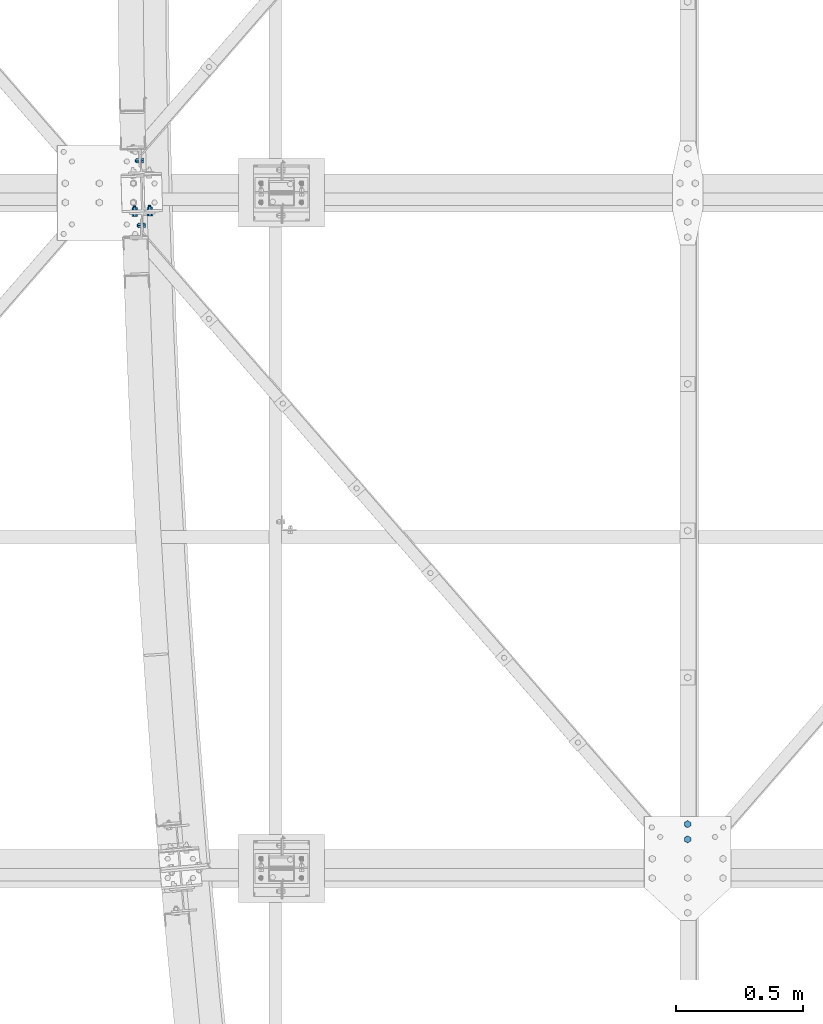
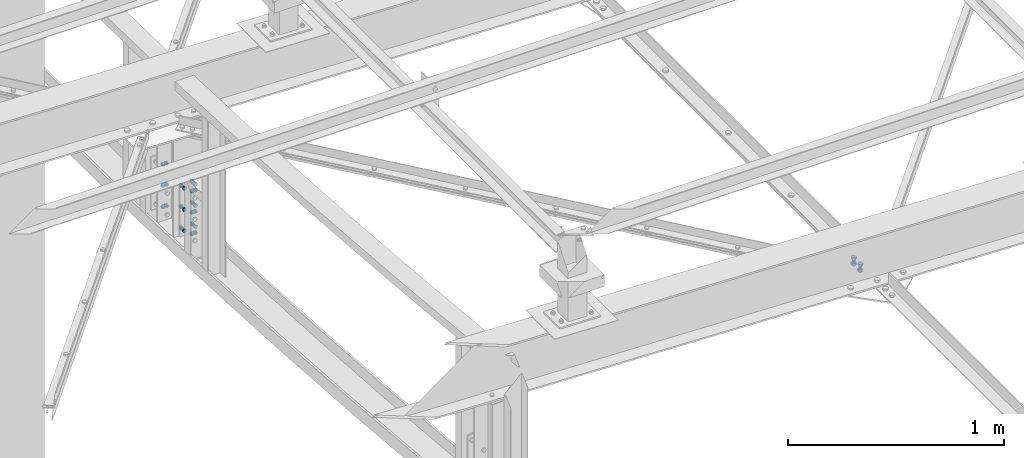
# One storey, part 163 of 3134: 4 mechanical fasteners, 4 elements without a shape of their own.
"""IFC2X3 building model written with IfcOpenShell, lengths in millimetres."""

from ifc_helpers import new_model, si_unit, frame, origin_with_axes, place, context, subcontext, project, spatial, faceted_brep, source, transform, mapped, material, type_object, element, aggregate, save


model = new_model("IFC2X3")

# Units and contexts
model_context = context("Model", 3, precision=1e-05, world=origin_with_axes())
body_context = subcontext(model_context, "Body", "Model", "MODEL_VIEW")
ifc_project = project(units=[si_unit("LENGTHUNIT", "METRE", prefix="MILLI"), si_unit("AREAUNIT", "SQUARE_METRE"), si_unit("VOLUMEUNIT", "CUBIC_METRE"), si_unit("MASSUNIT", "GRAM", prefix="KILO"), si_unit("TIMEUNIT", "SECOND"), si_unit("PLANEANGLEUNIT", "RADIAN"), si_unit("SOLIDANGLEUNIT", "STERADIAN"), si_unit("THERMODYNAMICTEMPERATUREUNIT", "DEGREE_CELSIUS"), si_unit("LUMINOUSINTENSITYUNIT", "LUMEN")], contexts=[model_context])

# Site, building, storey
site_placement = place(None, origin_with_axes())
site = spatial("IfcSite", under=ifc_project, at=site_placement, CompositionType="ELEMENT")
building_placement = place(site_placement, origin_with_axes())
building = spatial("IfcBuilding", under=site, at=building_placement, Name="Undefined", CompositionType="ELEMENT")
storey_placement = place(building_placement, origin_with_axes())
storey = spatial("IfcBuildingStorey", under=building, at=storey_placement, Name="Undefined", CompositionType="ELEMENT", Elevation=0.0)

# Assembly, mechanical fastener
assembly_1_placement = place(storey_placement, origin_with_axes())
assembly_1 = element("IfcElementAssembly", 1, at=assembly_1_placement, inside=storey, AssemblyPlace="NOTDEFINED", PredefinedType="RIGID_FRAME")
ifc_material = material(Name="8.8")
mechanical_fastener_type = type_object("IfcMechanicalFastenerType", Name="Bolt assembly")
shared_shape_1 = source(origin_with_axes(), body_context, "Body", "Brep", [
    faceted_brep([(10.9696551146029, -10.499999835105, 0.0), (5.48482755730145, -10.499999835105, 9.5), (-5.48482755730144, -10.499999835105, 9.5), (-10.9696551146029, -10.499999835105, 1.34339530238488e-15), (-5.48482755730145, -10.499999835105, -9.5), (5.48482755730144, -10.499999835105, -9.50000000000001), (5.48482755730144, -2.49999983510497, -9.50000000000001), (-5.48482755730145, -2.49999983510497, -9.5), (-10.9696551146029, -2.49999983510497, 1.34339530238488e-15), (-5.48482755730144, -2.49999983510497, 9.5), (5.48482755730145, -2.49999983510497, 9.5), (10.9696551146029, -2.49999983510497, 0.0), (6.0, -2.49999983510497, 0.0), (5.19615242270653, -2.49999983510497, 3.00000000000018), (2.99999999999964, -2.49999983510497, 5.19615242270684), (-6.21801588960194e-13, -2.49999983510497, 6.0), (-3.00000000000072, -2.49999983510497, 5.19615242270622), (-5.19615242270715, -2.49999983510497, 2.9999999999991), (-6.0, -2.49999983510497, -1.24360317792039e-12), (-5.19615242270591, -2.49999983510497, -3.00000000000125), (-2.99999999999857, -2.49999983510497, -5.19615242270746), (1.85874342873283e-12, -2.49999983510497, -6.0), (3.00000000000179, -2.49999983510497, -5.1961524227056), (5.19615242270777, -2.49999983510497, -2.99999999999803), (5.19615242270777, 22.5, -2.99999999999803), (3.00000000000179, 22.5, -5.1961524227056), (1.85874342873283e-12, 22.5, -6.0), (-2.99999999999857, 22.5, -5.19615242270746), (-5.19615242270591, 22.5, -3.00000000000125), (-6.0, 22.5, -1.24360317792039e-12), (-5.19615242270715, 22.5, 2.9999999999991), (-3.00000000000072, 22.5, 5.19615242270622), (-6.21801588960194e-13, 22.5, 6.0), (2.99999999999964, 22.5, 5.19615242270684), (5.19615242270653, 22.5, 3.00000000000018), (6.0, 22.5, 0.0), (10.9696551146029, 8.50160430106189, 0.0), (5.48482755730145, 8.50160430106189, 9.5), (-5.48482755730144, 8.50160430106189, 9.5), (-10.9696551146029, 8.50160430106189, 1.34339530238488e-15), (-5.48482755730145, 8.50160430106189, -9.5), (5.48482755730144, 8.50160430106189, -9.50000000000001), (5.48482755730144, 18.5016043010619, -9.50000000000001), (-5.48482755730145, 18.5016043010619, -9.5), (-10.9696551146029, 18.5016043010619, 1.34339530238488e-15), (-5.48482755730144, 18.5016043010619, 9.5), (5.48482755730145, 18.5016043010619, 9.5), (10.9696551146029, 18.5016043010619, 0.0)], [[[0, 1, 2, 3, 4, 5]], [[6, 7, 8, 9, 10, 11]], [[0, 11, 10, 1]], [[1, 10, 9, 2]], [[2, 9, 8, 3]], [[3, 8, 7, 4]], [[4, 7, 6, 5]], [[5, 6, 11, 0]], [[12, 13, 14, 15, 16, 17, 18, 19, 20, 21, 22, 23]], [[24, 25, 26, 27, 28, 29, 30, 31, 32, 33, 34, 35]], [[12, 35, 34, 13]], [[13, 34, 33, 14]], [[14, 33, 32, 15]], [[15, 32, 31, 16]], [[16, 31, 30, 17]], [[17, 30, 29, 18]], [[18, 29, 28, 19]], [[19, 28, 27, 20]], [[20, 27, 26, 21]], [[21, 26, 25, 22]], [[22, 25, 24, 23]], [[23, 24, 35, 12]], [[36, 37, 38, 39, 40, 41]], [[42, 43, 44, 45, 46, 47]], [[36, 47, 46, 37]], [[37, 46, 45, 38]], [[38, 45, 44, 39]], [[39, 44, 43, 40]], [[40, 43, 42, 41]], [[41, 42, 47, 36]]]),
    faceted_brep([(7.0, -2.39999983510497, 7.0), (6.46715672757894, -2.39999983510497, 9.6787840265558), (4.94974746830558, -2.39999983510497, 11.9497474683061), (-7.25435187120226e-13, -2.39999983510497, 14.0), (-3.50000000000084, -2.39999983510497, 13.0621778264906), (-6.06217782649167, -2.39999983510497, 10.499999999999), (-7.0, -2.39999983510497, 6.99999999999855), (-7.0, -2.39999983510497, -7.00000000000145), (-6.06217782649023, -2.39999983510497, -10.5000000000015), (-3.49999999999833, -2.39999983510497, -13.062177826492), (2.1685340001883e-12, -2.39999983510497, -14.0), (3.50000000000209, -2.39999983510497, -13.0621778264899), (6.0621778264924, -2.39999983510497, -10.4999999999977), (7.0, -2.39999983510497, -6.9999999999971), (7.0, 2.60000016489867, -6.9999999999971), (6.0621778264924, 2.60000016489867, -10.4999999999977), (3.50000000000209, 2.60000016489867, -13.0621778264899), (2.1685340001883e-12, 2.60000016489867, -14.0), (-3.49999999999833, 2.60000016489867, -13.062177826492), (-6.06217782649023, 2.60000016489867, -10.5000000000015), (-7.0, 2.60000016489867, -7.00000000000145), (-7.0, 2.60000016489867, 6.99999999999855), (-6.06217782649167, 2.60000016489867, 10.499999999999), (-3.50000000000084, 2.60000016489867, 13.0621778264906), (-7.25435187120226e-13, 2.60000016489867, 14.0), (2.67878402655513, 2.60000016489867, 13.4671567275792), (4.94974746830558, 2.60000016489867, 11.9497474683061), (6.46715672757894, 2.60000016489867, 9.6787840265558), (7.0, 2.60000016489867, 7.0), (2.67878402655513, -2.39999983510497, 13.4671567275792), (7.0, 2.40160430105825, 0.0), (6.06217782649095, 2.40160430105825, 3.50000000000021), (3.49999999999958, 2.40160430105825, 6.06217782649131), (-7.25435187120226e-13, 2.40160430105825, 7.0), (-3.50000000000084, 2.40160430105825, 6.06217782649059), (-6.06217782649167, 2.40160430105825, 3.49999999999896), (-7.0, 2.40160430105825, -1.45087037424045e-12), (-6.06217782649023, 2.40160430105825, -3.50000000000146), (-3.49999999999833, 2.40160430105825, -6.06217782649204), (2.1685340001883e-12, 2.40160430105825, -7.0), (3.50000000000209, 2.40160430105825, -6.06217782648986), (6.0621778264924, 2.40160430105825, -3.4999999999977), (6.0621778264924, 8.50160430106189, -3.4999999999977), (3.50000000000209, 8.50160430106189, -6.06217782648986), (2.1685340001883e-12, 8.50160430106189, -7.0), (-3.49999999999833, 8.50160430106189, -6.06217782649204), (-6.06217782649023, 8.50160430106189, -3.50000000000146), (-7.0, 8.50160430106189, -1.45087037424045e-12), (-6.06217782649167, 8.50160430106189, 3.49999999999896), (-3.50000000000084, 8.50160430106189, 6.06217782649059), (-7.25435187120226e-13, 8.50160430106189, 7.0), (3.49999999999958, 8.50160430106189, 6.06217782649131), (6.06217782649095, 8.50160430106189, 3.50000000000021), (7.0, 8.50160430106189, 0.0)], [[[0, 1, 2, 3, 4, 5, 6, 7, 8, 9, 10, 11, 12, 13]], [[14, 15, 16, 17, 18, 19, 20, 21, 22, 23, 24, 25, 26, 27, 28]], [[0, 28, 27, 1]], [[1, 27, 26, 2]], [[2, 26, 25, 29]], [[29, 25, 24, 3]], [[3, 24, 23, 4]], [[4, 23, 22, 5]], [[5, 22, 21, 6]], [[6, 21, 20, 7]], [[7, 20, 19, 8]], [[8, 19, 18, 9]], [[9, 18, 17, 10]], [[10, 17, 16, 11]], [[11, 16, 15, 12]], [[12, 15, 14, 13]], [[13, 14, 28, 0]], [[30, 31, 32, 33, 34, 35, 36, 37, 38, 39, 40, 41]], [[42, 43, 44, 45, 46, 47, 48, 49, 50, 51, 52, 53]], [[30, 53, 52, 31]], [[31, 52, 51, 32]], [[32, 51, 50, 33]], [[33, 50, 49, 34]], [[34, 49, 48, 35]], [[35, 48, 47, 36]], [[36, 47, 46, 37]], [[37, 46, 45, 38]], [[38, 45, 44, 39]], [[39, 44, 43, 40]], [[40, 43, 42, 41]], [[41, 42, 53, 30]]]),
])
mechanical_fastener_1_placement = place(assembly_1_placement, frame((2494.83803670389, 32116.0854592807, 3290.00065963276), z_axis=(-0.0267161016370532, 0.999643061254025, 0.0), x_axis=(0.0, 0.0, -1.0)))
mechanical_fastener_1 = element("IfcMechanicalFastener", 2, at=mechanical_fastener_1_placement, type_object=mechanical_fastener_type, material=ifc_material, Name="Bolt assembly", NominalDiameter=12.0, NominalLength=25.0, context=body_context, shape_type="MappedRepresentation", body=[
    mapped(shared_shape_1, transform((0.0, 0.0, 0.0))),
    mapped(shared_shape_1, transform((120.0, 0.0, 0.0))),
    mapped(shared_shape_1, transform((240.0, 0.0, 0.0))),
])
aggregate(assembly_1, [mechanical_fastener_1])

assembly_2_placement = place(storey_placement, origin_with_axes())
assembly_2 = element("IfcElementAssembly", 3, at=assembly_2_placement, inside=storey, Name="HEA160", AssemblyPlace="NOTDEFINED", PredefinedType="RIGID_FRAME")
shared_shape_2 = source(origin_with_axes(), body_context, "Body", "Brep", [
    faceted_brep([(10.9696551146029, -16.0, 0.0), (5.48482755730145, -16.0, 9.5), (-5.48482755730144, -16.0, 9.5), (-10.9696551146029, -16.0, 1.34339530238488e-15), (-5.48482755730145, -16.0, -9.5), (5.48482755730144, -16.0, -9.50000000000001), (5.48482755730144, -8.0, -9.50000000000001), (-5.48482755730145, -8.0, -9.5), (-10.9696551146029, -8.0, 1.34339530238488e-15), (-5.48482755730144, -8.0, 9.5), (5.48482755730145, -8.0, 9.5), (10.9696551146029, -8.0, 0.0), (6.0, -8.0, 0.0), (5.19615242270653, -8.0, 3.00000000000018), (2.99999999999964, -8.0, 5.19615242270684), (-6.21801588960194e-13, -8.0, 6.0), (-3.00000000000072, -8.0, 5.19615242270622), (-5.19615242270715, -8.0, 2.9999999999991), (-6.0, -8.0, -1.24360317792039e-12), (-5.19615242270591, -8.0, -3.00000000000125), (-2.99999999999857, -8.0, -5.19615242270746), (1.85874342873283e-12, -8.0, -6.0), (3.00000000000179, -8.0, -5.1961524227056), (5.19615242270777, -8.0, -2.99999999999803), (5.19615242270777, 27.0, -2.99999999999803), (3.00000000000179, 27.0, -5.1961524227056), (1.85874342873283e-12, 27.0, -6.0), (-2.99999999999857, 27.0, -5.19615242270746), (-5.19615242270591, 27.0, -3.00000000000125), (-6.0, 27.0, -1.24360317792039e-12), (-5.19615242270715, 27.0, 2.9999999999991), (-3.00000000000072, 27.0, 5.19615242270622), (-6.21801588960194e-13, 27.0, 6.0), (2.99999999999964, 27.0, 5.19615242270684), (5.19615242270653, 27.0, 3.00000000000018), (6.0, 27.0, 0.0), (10.9696551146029, 9.00000000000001, 0.0), (5.48482755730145, 9.00000000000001, 9.5), (-5.48482755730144, 9.00000000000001, 9.5), (-10.9696551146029, 9.00000000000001, 1.34339530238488e-15), (-5.48482755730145, 9.00000000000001, -9.5), (5.48482755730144, 9.00000000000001, -9.50000000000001), (5.48482755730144, 19.0, -9.50000000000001), (-5.48482755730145, 19.0, -9.5), (-10.9696551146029, 19.0, 1.34339530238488e-15), (-5.48482755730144, 19.0, 9.5), (5.48482755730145, 19.0, 9.5), (10.9696551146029, 19.0, 0.0)], [[[0, 1, 2, 3, 4, 5]], [[6, 7, 8, 9, 10, 11]], [[0, 11, 10, 1]], [[1, 10, 9, 2]], [[2, 9, 8, 3]], [[3, 8, 7, 4]], [[4, 7, 6, 5]], [[5, 6, 11, 0]], [[12, 13, 14, 15, 16, 17, 18, 19, 20, 21, 22, 23]], [[24, 25, 26, 27, 28, 29, 30, 31, 32, 33, 34, 35]], [[12, 35, 34, 13]], [[13, 34, 33, 14]], [[14, 33, 32, 15]], [[15, 32, 31, 16]], [[16, 31, 30, 17]], [[17, 30, 29, 18]], [[18, 29, 28, 19]], [[19, 28, 27, 20]], [[20, 27, 26, 21]], [[21, 26, 25, 22]], [[22, 25, 24, 23]], [[23, 24, 35, 12]], [[36, 37, 38, 39, 40, 41]], [[42, 43, 44, 45, 46, 47]], [[36, 47, 46, 37]], [[37, 46, 45, 38]], [[38, 45, 44, 39]], [[39, 44, 43, 40]], [[40, 43, 42, 41]], [[41, 42, 47, 36]]]),
    faceted_brep([(7.0, -7.9, 0.0), (6.06217782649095, -7.9, 3.50000000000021), (3.49999999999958, -7.9, 6.06217782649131), (-7.25435187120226e-13, -7.9, 7.0), (-3.50000000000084, -7.9, 6.06217782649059), (-6.06217782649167, -7.9, 3.49999999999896), (-7.0, -7.9, -1.45087037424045e-12), (-6.06217782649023, -7.9, -3.50000000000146), (-3.49999999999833, -7.9, -6.06217782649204), (2.1685340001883e-12, -7.9, -7.0), (3.50000000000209, -7.9, -6.06217782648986), (6.0621778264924, -7.9, -3.4999999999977), (6.0621778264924, 0.0999999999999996, -3.4999999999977), (3.50000000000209, 0.0999999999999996, -6.06217782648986), (2.1685340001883e-12, 0.0999999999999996, -7.0), (-3.49999999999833, 0.0999999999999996, -6.06217782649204), (-6.06217782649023, 0.0999999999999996, -3.50000000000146), (-7.0, 0.0999999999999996, -1.45087037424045e-12), (-6.06217782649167, 0.0999999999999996, 3.49999999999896), (-3.50000000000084, 0.0999999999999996, 6.06217782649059), (-7.25435187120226e-13, 0.0999999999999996, 7.0), (3.49999999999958, 0.0999999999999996, 6.06217782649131), (6.06217782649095, 0.0999999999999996, 3.50000000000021), (7.0, 0.0999999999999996, 0.0), (7.0, -0.1, 0.0), (6.06217782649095, -0.1, 3.50000000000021), (3.49999999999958, -0.1, 6.06217782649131), (-7.25435187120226e-13, -0.1, 7.0), (-3.50000000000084, -0.1, 6.06217782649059), (-6.06217782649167, -0.1, 3.49999999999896), (-7.0, -0.1, -1.45087037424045e-12), (-6.06217782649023, -0.1, -3.50000000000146), (-3.49999999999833, -0.1, -6.06217782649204), (2.1685340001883e-12, -0.1, -7.0), (3.50000000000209, -0.1, -6.06217782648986), (6.0621778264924, -0.1, -3.4999999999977), (6.0621778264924, 9.00000000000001, -3.4999999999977), (3.50000000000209, 9.00000000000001, -6.06217782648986), (2.1685340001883e-12, 9.00000000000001, -7.0), (-3.49999999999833, 9.00000000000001, -6.06217782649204), (-6.06217782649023, 9.00000000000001, -3.50000000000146), (-7.0, 9.00000000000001, -1.45087037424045e-12), (-6.06217782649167, 9.00000000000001, 3.49999999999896), (-3.50000000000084, 9.00000000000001, 6.06217782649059), (-7.25435187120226e-13, 9.00000000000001, 7.0), (3.49999999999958, 9.00000000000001, 6.06217782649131), (6.06217782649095, 9.00000000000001, 3.50000000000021), (7.0, 9.00000000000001, 0.0)], [[[0, 1, 2, 3, 4, 5, 6, 7, 8, 9, 10, 11]], [[12, 13, 14, 15, 16, 17, 18, 19, 20, 21, 22, 23]], [[0, 23, 22, 1]], [[1, 22, 21, 2]], [[2, 21, 20, 3]], [[3, 20, 19, 4]], [[4, 19, 18, 5]], [[5, 18, 17, 6]], [[6, 17, 16, 7]], [[7, 16, 15, 8]], [[8, 15, 14, 9]], [[9, 14, 13, 10]], [[10, 13, 12, 11]], [[11, 12, 23, 0]], [[24, 25, 26, 27, 28, 29, 30, 31, 32, 33, 34, 35]], [[36, 37, 38, 39, 40, 41, 42, 43, 44, 45, 46, 47]], [[24, 47, 46, 25]], [[25, 46, 45, 26]], [[26, 45, 44, 27]], [[27, 44, 43, 28]], [[28, 43, 42, 29]], [[29, 42, 41, 30]], [[30, 41, 40, 31]], [[31, 40, 39, 32]], [[32, 39, 38, 33]], [[33, 38, 37, 34]], [[34, 37, 36, 35]], [[35, 36, 47, 24]]]),
])
mechanical_fastener_2_placement = place(assembly_2_placement, frame((2463.47275763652, 32166.7695440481, 3170.0), z_axis=(0.0, 0.0, 1.0), x_axis=(0.999643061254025, 0.0267161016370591, 0.0)))
mechanical_fastener_2 = element("IfcMechanicalFastener", 4, at=mechanical_fastener_2_placement, type_object=mechanical_fastener_type, material=ifc_material, Name="Bolt assembly", NominalDiameter=12.0, NominalLength=35.0, context=body_context, shape_type="MappedRepresentation", body=[
    mapped(shared_shape_2, transform((0.0, 0.0, -120.0))),
    mapped(shared_shape_2, transform((60.0000000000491, 0.0, -120.0))),
    mapped(shared_shape_2, transform((0.0, 0.0, 0.0))),
    mapped(shared_shape_2, transform((59.9999999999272, 0.0, 5.40239852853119e-10))),
    mapped(shared_shape_2, transform((0.0, 0.0, 120.0))),
    mapped(shared_shape_2, transform((60.0000000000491, 0.0, 120.0))),
])
aggregate(assembly_2, [mechanical_fastener_2])

assembly_3_placement = place(storey_placement, origin_with_axes())
assembly_3 = element("IfcElementAssembly", 5, at=assembly_3_placement, inside=storey, AssemblyPlace="NOTDEFINED", PredefinedType="RIGID_FRAME")
shared_shape_3 = source(origin_with_axes(), body_context, "Body", "Brep", [
    faceted_brep([(10.9696551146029, -10.499999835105, 0.0), (5.48482755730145, -10.499999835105, 9.5), (-5.48482755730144, -10.499999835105, 9.5), (-10.9696551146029, -10.499999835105, 1.34339530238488e-15), (-5.48482755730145, -10.499999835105, -9.5), (5.48482755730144, -10.499999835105, -9.50000000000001), (5.48482755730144, -2.49999983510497, -9.50000000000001), (-5.48482755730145, -2.49999983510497, -9.5), (-10.9696551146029, -2.49999983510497, 1.34339530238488e-15), (-5.48482755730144, -2.49999983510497, 9.5), (5.48482755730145, -2.49999983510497, 9.5), (10.9696551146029, -2.49999983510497, 0.0), (6.0, -2.49999983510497, 0.0), (5.19615242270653, -2.49999983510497, 3.00000000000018), (2.99999999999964, -2.49999983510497, 5.19615242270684), (-6.21801588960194e-13, -2.49999983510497, 6.0), (-3.00000000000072, -2.49999983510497, 5.19615242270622), (-5.19615242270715, -2.49999983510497, 2.9999999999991), (-6.0, -2.49999983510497, -1.24360317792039e-12), (-5.19615242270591, -2.49999983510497, -3.00000000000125), (-2.99999999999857, -2.49999983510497, -5.19615242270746), (1.85874342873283e-12, -2.49999983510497, -6.0), (3.00000000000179, -2.49999983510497, -5.1961524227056), (5.19615242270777, -2.49999983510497, -2.99999999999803), (5.19615242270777, 22.5, -2.99999999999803), (3.00000000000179, 22.5, -5.1961524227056), (1.85874342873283e-12, 22.5, -6.0), (-2.99999999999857, 22.5, -5.19615242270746), (-5.19615242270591, 22.5, -3.00000000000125), (-6.0, 22.5, -1.24360317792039e-12), (-5.19615242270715, 22.5, 2.9999999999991), (-3.00000000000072, 22.5, 5.19615242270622), (-6.21801588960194e-13, 22.5, 6.0), (2.99999999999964, 22.5, 5.19615242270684), (5.19615242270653, 22.5, 3.00000000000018), (6.0, 22.5, 0.0), (10.9696551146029, 8.50153105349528, 0.0), (5.48482755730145, 8.50153105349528, 9.5), (-5.48482755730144, 8.50153105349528, 9.5), (-10.9696551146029, 8.50153105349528, 1.34339530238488e-15), (-5.48482755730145, 8.50153105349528, -9.5), (5.48482755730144, 8.50153105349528, -9.50000000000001), (5.48482755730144, 18.5015310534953, -9.50000000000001), (-5.48482755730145, 18.5015310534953, -9.5), (-10.9696551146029, 18.5015310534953, 1.34339530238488e-15), (-5.48482755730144, 18.5015310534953, 9.5), (5.48482755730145, 18.5015310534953, 9.5), (10.9696551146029, 18.5015310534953, 0.0)], [[[0, 1, 2, 3, 4, 5]], [[6, 7, 8, 9, 10, 11]], [[0, 11, 10, 1]], [[1, 10, 9, 2]], [[2, 9, 8, 3]], [[3, 8, 7, 4]], [[4, 7, 6, 5]], [[5, 6, 11, 0]], [[12, 13, 14, 15, 16, 17, 18, 19, 20, 21, 22, 23]], [[24, 25, 26, 27, 28, 29, 30, 31, 32, 33, 34, 35]], [[12, 35, 34, 13]], [[13, 34, 33, 14]], [[14, 33, 32, 15]], [[15, 32, 31, 16]], [[16, 31, 30, 17]], [[17, 30, 29, 18]], [[18, 29, 28, 19]], [[19, 28, 27, 20]], [[20, 27, 26, 21]], [[21, 26, 25, 22]], [[22, 25, 24, 23]], [[23, 24, 35, 12]], [[36, 37, 38, 39, 40, 41]], [[42, 43, 44, 45, 46, 47]], [[36, 47, 46, 37]], [[37, 46, 45, 38]], [[38, 45, 44, 39]], [[39, 44, 43, 40]], [[40, 43, 42, 41]], [[41, 42, 47, 36]]]),
    faceted_brep([(7.0, -2.39999983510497, 7.0), (6.46715672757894, -2.39999983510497, 9.6787840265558), (4.94974746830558, -2.39999983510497, 11.9497474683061), (-7.25435187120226e-13, -2.39999983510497, 14.0), (-3.50000000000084, -2.39999983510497, 13.0621778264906), (-6.06217782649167, -2.39999983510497, 10.499999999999), (-7.0, -2.39999983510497, 6.99999999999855), (-7.0, -2.39999983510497, -7.00000000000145), (-6.06217782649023, -2.39999983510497, -10.5000000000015), (-3.49999999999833, -2.39999983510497, -13.062177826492), (2.1685340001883e-12, -2.39999983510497, -14.0), (3.50000000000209, -2.39999983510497, -13.0621778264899), (6.0621778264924, -2.39999983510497, -10.4999999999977), (7.0, -2.39999983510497, -6.9999999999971), (7.0, 2.60000016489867, -6.9999999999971), (6.0621778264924, 2.60000016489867, -10.4999999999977), (3.50000000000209, 2.60000016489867, -13.0621778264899), (2.1685340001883e-12, 2.60000016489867, -14.0), (-3.49999999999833, 2.60000016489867, -13.062177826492), (-6.06217782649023, 2.60000016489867, -10.5000000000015), (-7.0, 2.60000016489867, -7.00000000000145), (-7.0, 2.60000016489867, 6.99999999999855), (-6.06217782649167, 2.60000016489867, 10.499999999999), (-3.50000000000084, 2.60000016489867, 13.0621778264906), (-7.25435187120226e-13, 2.60000016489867, 14.0), (2.67878402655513, 2.60000016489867, 13.4671567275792), (4.94974746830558, 2.60000016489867, 11.9497474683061), (6.46715672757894, 2.60000016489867, 9.6787840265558), (7.0, 2.60000016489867, 7.0), (2.67878402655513, -2.39999983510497, 13.4671567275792), (7.0, 2.4015310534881, 0.0), (6.06217782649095, 2.4015310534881, 3.50000000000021), (3.49999999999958, 2.4015310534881, 6.06217782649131), (-7.25435187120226e-13, 2.4015310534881, 7.0), (-3.50000000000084, 2.4015310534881, 6.06217782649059), (-6.06217782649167, 2.4015310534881, 3.49999999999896), (-7.0, 2.4015310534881, -1.45087037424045e-12), (-6.06217782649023, 2.4015310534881, -3.50000000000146), (-3.49999999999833, 2.4015310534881, -6.06217782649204), (2.1685340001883e-12, 2.4015310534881, -7.0), (3.50000000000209, 2.4015310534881, -6.06217782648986), (6.0621778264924, 2.4015310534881, -3.4999999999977), (6.0621778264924, 8.50153105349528, -3.4999999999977), (3.50000000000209, 8.50153105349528, -6.06217782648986), (2.1685340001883e-12, 8.50153105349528, -7.0), (-3.49999999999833, 8.50153105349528, -6.06217782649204), (-6.06217782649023, 8.50153105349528, -3.50000000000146), (-7.0, 8.50153105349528, -1.45087037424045e-12), (-6.06217782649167, 8.50153105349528, 3.49999999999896), (-3.50000000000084, 8.50153105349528, 6.06217782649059), (-7.25435187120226e-13, 8.50153105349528, 7.0), (3.49999999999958, 8.50153105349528, 6.06217782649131), (6.06217782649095, 8.50153105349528, 3.50000000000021), (7.0, 8.50153105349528, 0.0)], [[[0, 1, 2, 3, 4, 5, 6, 7, 8, 9, 10, 11, 12, 13]], [[14, 15, 16, 17, 18, 19, 20, 21, 22, 23, 24, 25, 26, 27, 28]], [[0, 28, 27, 1]], [[1, 27, 26, 2]], [[2, 26, 25, 29]], [[29, 25, 24, 3]], [[3, 24, 23, 4]], [[4, 23, 22, 5]], [[5, 22, 21, 6]], [[6, 21, 20, 7]], [[7, 20, 19, 8]], [[8, 19, 18, 9]], [[9, 18, 17, 10]], [[10, 17, 16, 11]], [[11, 16, 15, 12]], [[12, 15, 14, 13]], [[13, 14, 28, 0]], [[30, 31, 32, 33, 34, 35, 36, 37, 38, 39, 40, 41]], [[42, 43, 44, 45, 46, 47, 48, 49, 50, 51, 52, 53]], [[30, 53, 52, 31]], [[31, 52, 51, 32]], [[32, 51, 50, 33]], [[33, 50, 49, 34]], [[34, 49, 48, 35]], [[35, 48, 47, 36]], [[36, 47, 46, 37]], [[37, 46, 45, 38]], [[38, 45, 44, 39]], [[39, 44, 43, 40]], [[40, 43, 42, 41]], [[41, 42, 53, 30]]]),
])
mechanical_fastener_3_placement = place(assembly_3_placement, frame((2488.02520764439, 32371.0023400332, 3290.00065963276), z_axis=(-0.0267161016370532, 0.999643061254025, 0.0), x_axis=(0.0, 0.0, -1.0)))
mechanical_fastener_3 = element("IfcMechanicalFastener", 6, at=mechanical_fastener_3_placement, type_object=mechanical_fastener_type, material=ifc_material, Name="Bolt assembly", NominalDiameter=12.0, NominalLength=25.0, context=body_context, shape_type="MappedRepresentation", body=[
    mapped(shared_shape_3, transform((0.0, 0.0, 0.0))),
    mapped(shared_shape_3, transform((120.0, 0.0, 0.0))),
    mapped(shared_shape_3, transform((240.0, 0.0, 0.0))),
])
aggregate(assembly_3, [mechanical_fastener_3])

assembly_4_placement = place(storey_placement, origin_with_axes())
assembly_4 = element("IfcElementAssembly", 7, at=assembly_4_placement, inside=storey, Name="PL8", AssemblyPlace="NOTDEFINED", PredefinedType="RIGID_FRAME")
shared_shape_4 = source(origin_with_axes(), body_context, "Body", "Brep", [
    faceted_brep([(13.856406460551, -21.0000017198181, 0.0), (6.92820323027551, -21.0000017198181, 12.0), (-6.92820323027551, -21.0000017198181, 12.0), (-13.856406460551, -21.0000017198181, 1.69692038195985e-15), (-6.92820323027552, -21.0000017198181, -12.0), (6.9282032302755, -21.0000017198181, -12.0), (6.9282032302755, -11.0000017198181, -12.0), (-6.92820323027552, -11.0000017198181, -12.0), (-13.856406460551, -11.0000017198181, 1.69692038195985e-15), (-6.92820323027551, -11.0000017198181, 12.0), (6.92820323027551, -11.0000017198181, 12.0), (13.856406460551, -11.0000017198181, 0.0), (8.0, -11.0000017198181, 0.0), (6.92820323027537, -11.0000017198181, 4.00000000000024), (3.99999999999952, -11.0000017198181, 6.92820323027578), (-8.29068785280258e-13, -11.0000017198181, 8.0), (-4.00000000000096, -11.0000017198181, 6.92820323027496), (-6.9282032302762, -11.0000017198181, 3.99999999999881), (-8.0, -11.0000017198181, -1.65813757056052e-12), (-6.92820323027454, -11.0000017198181, -4.00000000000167), (-3.99999999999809, -11.0000017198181, -6.92820323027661), (2.47832457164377e-12, -11.0000017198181, -8.0), (4.00000000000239, -11.0000017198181, -6.92820323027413), (6.92820323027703, -11.0000017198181, -3.99999999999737), (6.92820323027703, 29.0, -3.99999999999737), (4.00000000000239, 29.0, -6.92820323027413), (2.47832457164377e-12, 29.0, -8.0), (-3.99999999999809, 29.0, -6.92820323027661), (-6.92820323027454, 29.0, -4.00000000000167), (-8.0, 29.0, -1.65813757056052e-12), (-6.9282032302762, 29.0, 3.99999999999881), (-4.00000000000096, 29.0, 6.92820323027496), (-8.29068785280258e-13, 29.0, 8.0), (3.99999999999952, 29.0, 6.92820323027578), (6.92820323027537, 29.0, 4.00000000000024), (8.0, 29.0, 0.0), (13.856406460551, 10.9999982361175, 0.0), (6.92820323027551, 10.9999982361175, 12.0), (-6.92820323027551, 10.9999982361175, 12.0), (-13.856406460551, 10.9999982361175, 1.69692038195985e-15), (-6.92820323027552, 10.9999982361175, -12.0), (6.9282032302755, 10.9999982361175, -12.0), (6.9282032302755, 23.9999999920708, -12.0), (-6.92820323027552, 23.9999999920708, -12.0), (-13.856406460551, 23.9999999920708, 1.69692038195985e-15), (-6.92820323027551, 23.9999999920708, 12.0), (6.92820323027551, 23.9999999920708, 12.0), (13.856406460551, 23.9999999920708, 0.0)], [[[0, 1, 2, 3, 4, 5]], [[6, 7, 8, 9, 10, 11]], [[0, 11, 10, 1]], [[1, 10, 9, 2]], [[2, 9, 8, 3]], [[3, 8, 7, 4]], [[4, 7, 6, 5]], [[5, 6, 11, 0]], [[12, 13, 14, 15, 16, 17, 18, 19, 20, 21, 22, 23]], [[24, 25, 26, 27, 28, 29, 30, 31, 32, 33, 34, 35]], [[12, 35, 34, 13]], [[13, 34, 33, 14]], [[14, 33, 32, 15]], [[15, 32, 31, 16]], [[16, 31, 30, 17]], [[17, 30, 29, 18]], [[18, 29, 28, 19]], [[19, 28, 27, 20]], [[20, 27, 26, 21]], [[21, 26, 25, 22]], [[22, 25, 24, 23]], [[23, 24, 35, 12]], [[36, 37, 38, 39, 40, 41]], [[42, 43, 44, 45, 46, 47]], [[36, 47, 46, 37]], [[37, 46, 45, 38]], [[38, 45, 44, 39]], [[39, 44, 43, 40]], [[40, 43, 42, 41]], [[41, 42, 47, 36]]]),
    faceted_brep([(9.0, -10.9000017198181, 0.0), (7.79422863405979, -10.9000017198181, 4.50000000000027), (4.49999999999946, -10.9000017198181, 7.79422863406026), (-9.3270238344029e-13, -10.9000017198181, 9.0), (-4.50000000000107, -10.9000017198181, 7.79422863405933), (-7.79422863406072, -10.9000017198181, 4.49999999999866), (-9.0, -10.9000017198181, -1.86540476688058e-12), (-7.79422863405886, -10.9000017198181, -4.50000000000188), (-4.49999999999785, -10.9000017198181, -7.79422863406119), (2.78811514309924e-12, -10.9000017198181, -9.0), (4.50000000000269, -10.9000017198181, -7.7942286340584), (7.79422863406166, -10.9000017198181, -4.49999999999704), (7.79422863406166, -3.9, -4.49999999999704), (4.50000000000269, -3.9, -7.7942286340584), (2.78811514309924e-12, -3.9, -9.0), (-4.49999999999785, -3.9, -7.79422863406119), (-7.79422863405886, -3.9, -4.50000000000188), (-9.0, -3.9, -1.86540476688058e-12), (-7.79422863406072, -3.9, 4.49999999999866), (-4.50000000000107, -3.9, 7.79422863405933), (-9.3270238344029e-13, -3.9, 9.0), (4.49999999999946, -3.9, 7.79422863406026), (7.79422863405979, -3.9, 4.50000000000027), (9.0, -3.9, 0.0), (9.0, -3.99999624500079, 0.0), (7.79422863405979, -3.99999624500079, 4.50000000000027), (4.49999999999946, -3.99999624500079, 7.79422863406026), (-9.3270238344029e-13, -3.99999624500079, 9.0), (-4.50000000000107, -3.99999624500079, 7.79422863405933), (-7.79422863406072, -3.99999624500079, 4.49999999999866), (-9.0, -3.99999624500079, -1.86540476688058e-12), (-7.79422863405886, -3.99999624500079, -4.50000000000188), (-4.49999999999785, -3.99999624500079, -7.79422863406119), (2.78811514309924e-12, -3.99999624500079, -9.0), (4.50000000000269, -3.99999624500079, -7.7942286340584), (7.79422863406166, -3.99999624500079, -4.49999999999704), (7.79422863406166, 4.00000375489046, -4.49999999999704), (4.50000000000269, 4.00000375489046, -7.7942286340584), (2.78811514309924e-12, 4.00000375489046, -9.0), (-4.49999999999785, 4.00000375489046, -7.79422863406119), (-7.79422863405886, 4.00000375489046, -4.50000000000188), (-9.0, 4.00000375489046, -1.86540476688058e-12), (-7.79422863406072, 4.00000375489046, 4.49999999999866), (-4.50000000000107, 4.00000375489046, 7.79422863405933), (-9.3270238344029e-13, 4.00000375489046, 9.0), (4.49999999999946, 4.00000375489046, 7.79422863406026), (7.79422863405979, 4.00000375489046, 4.50000000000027), (9.0, 4.00000375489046, 0.0), (9.0, 3.9, 0.0), (7.79422863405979, 3.9, 4.50000000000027), (4.49999999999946, 3.9, 7.79422863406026), (-9.3270238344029e-13, 3.9, 9.0), (-4.50000000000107, 3.9, 7.79422863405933), (-7.79422863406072, 3.9, 4.49999999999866), (-9.0, 3.9, -1.86540476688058e-12), (-7.79422863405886, 3.9, -4.50000000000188), (-4.49999999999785, 3.9, -7.79422863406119), (2.78811514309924e-12, 3.9, -9.0), (4.50000000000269, 3.9, -7.7942286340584), (7.79422863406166, 3.9, -4.49999999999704), (7.79422863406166, 10.9999982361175, -4.49999999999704), (4.50000000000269, 10.9999982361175, -7.7942286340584), (2.78811514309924e-12, 10.9999982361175, -9.0), (-4.49999999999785, 10.9999982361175, -7.79422863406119), (-7.79422863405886, 10.9999982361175, -4.50000000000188), (-9.0, 10.9999982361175, -1.86540476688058e-12), (-7.79422863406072, 10.9999982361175, 4.49999999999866), (-4.50000000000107, 10.9999982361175, 7.79422863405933), (-9.3270238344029e-13, 10.9999982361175, 9.0), (4.49999999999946, 10.9999982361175, 7.79422863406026), (7.79422863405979, 10.9999982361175, 4.50000000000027), (9.0, 10.9999982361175, 0.0)], [[[0, 1, 2, 3, 4, 5, 6, 7, 8, 9, 10, 11]], [[12, 13, 14, 15, 16, 17, 18, 19, 20, 21, 22, 23]], [[0, 23, 22, 1]], [[1, 22, 21, 2]], [[2, 21, 20, 3]], [[3, 20, 19, 4]], [[4, 19, 18, 5]], [[5, 18, 17, 6]], [[6, 17, 16, 7]], [[7, 16, 15, 8]], [[8, 15, 14, 9]], [[9, 14, 13, 10]], [[10, 13, 12, 11]], [[11, 12, 23, 0]], [[24, 25, 26, 27, 28, 29, 30, 31, 32, 33, 34, 35]], [[36, 37, 38, 39, 40, 41, 42, 43, 44, 45, 46, 47]], [[24, 47, 46, 25]], [[25, 46, 45, 26]], [[26, 45, 44, 27]], [[27, 44, 43, 28]], [[28, 43, 42, 29]], [[29, 42, 41, 30]], [[30, 41, 40, 31]], [[31, 40, 39, 32]], [[32, 39, 38, 33]], [[33, 38, 37, 34]], [[34, 37, 36, 35]], [[35, 36, 47, 24]], [[48, 49, 50, 51, 52, 53, 54, 55, 56, 57, 58, 59]], [[60, 61, 62, 63, 64, 65, 66, 67, 68, 69, 70, 71]], [[48, 71, 70, 49]], [[49, 70, 69, 50]], [[50, 69, 68, 51]], [[51, 68, 67, 52]], [[52, 67, 66, 53]], [[53, 66, 65, 54]], [[54, 65, 64, 55]], [[55, 64, 63, 56]], [[56, 63, 62, 57]], [[57, 62, 61, 58]], [[58, 61, 60, 59]], [[59, 60, 71, 48]]]),
])
mechanical_fastener_4_placement = place(assembly_4_placement, frame((4647.504835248, 29690.0, 3576.15051901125), z_axis=(-0.999388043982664, 0.0, 0.0349791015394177), x_axis=(0.0, 1.0, 0.0)))
mechanical_fastener_4 = element("IfcMechanicalFastener", 8, at=mechanical_fastener_4_placement, type_object=mechanical_fastener_type, material=ifc_material, Name="Bolt assembly", NominalDiameter=16.0, NominalLength=40.0, context=body_context, shape_type="MappedRepresentation", body=[
    mapped(shared_shape_4, transform((0.0, 0.0, 0.0))),
    mapped(shared_shape_4, transform((59.9999999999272, 0.0, 5.40239852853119e-10))),
])
aggregate(assembly_4, [mechanical_fastener_4])

save(model, "model.ifc")
